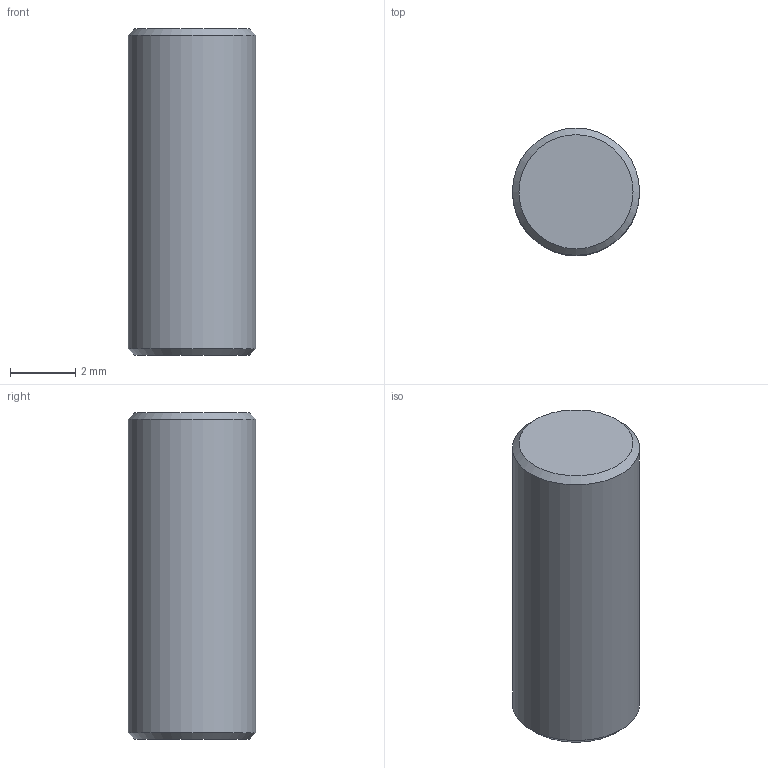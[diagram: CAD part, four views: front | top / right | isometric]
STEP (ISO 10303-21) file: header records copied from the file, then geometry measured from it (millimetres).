
FILE_DESCRIPTION(('Open CASCADE Model'),'2;1');
FILE_NAME('Open CASCADE Shape Model','2026-10-21T12:47:56',('Author'),( 'Open CASCADE'),'Open CASCADE STEP processor 7.9','Open CASCADE 7.9' ,'Unknown');
FILE_SCHEMA(('AUTOMOTIVE_DESIGN { 1 0 10303 214 1 1 1 1 }'));
Length unit declared in the file: millimetre
Products named in the file (1): Open CASCADE STEP translator 7.9 5
Bounding box: 3.9 x 3.9 x 10 mm (x, y, z)
Volume: 119 mm3; surface area: 143.4 mm2
Topology: 1 solids, 1 shells, 5 faces, 7 edges, 4 vertices
Faces by surface type: cone 2, plane 2, cylinder 1
Full cylindrical faces by diameter (mm): 3.9 x1
Entity records: 208 total; most frequent: DIRECTION 35, CARTESIAN_POINT 33, ORIENTED_EDGE 14, PCURVE 14, DEFINITIONAL_REPRESENTATION 14, LINE 13, VECTOR 13, AXIS2_PLACEMENT_3D 10
